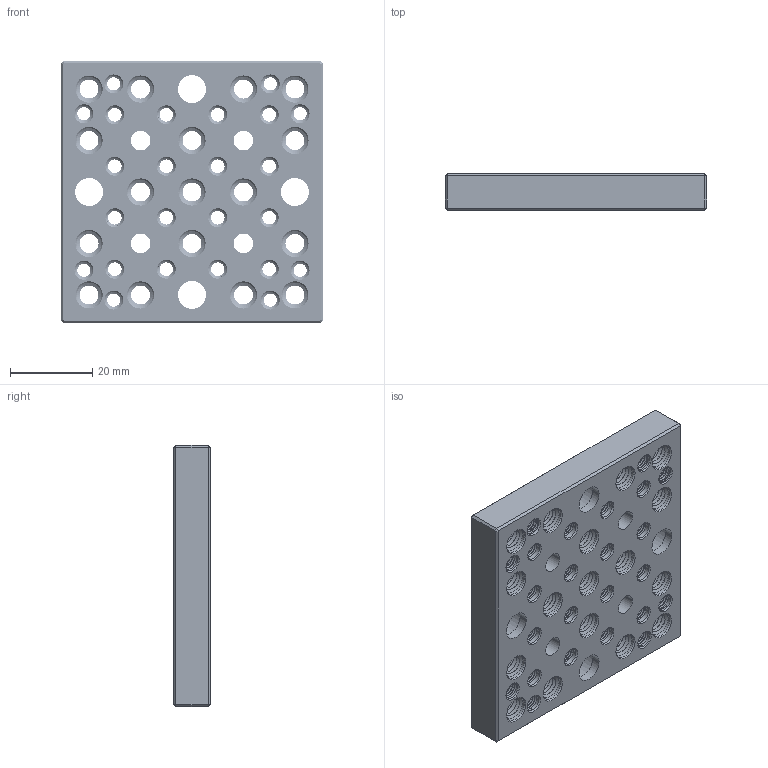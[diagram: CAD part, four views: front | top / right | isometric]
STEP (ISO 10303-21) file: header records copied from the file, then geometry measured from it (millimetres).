
FILE_DESCRIPTION((''),'2;1');
FILE_NAME('OPS-M406','2020-10-21T',('Administrator'),(''),'CREO PARAMETRIC BY PTC INC, 2017300','CREO PARAMETRIC BY PTC INC, 2017300','');
FILE_SCHEMA(('CONFIG_CONTROL_DESIGN'));
Products named in the file (1): OPS-M406
Bounding box: 63.5 x 9 x 63.5 mm (x, y, z)
Volume: 26169.7 mm3; surface area: 17702.7 mm2
Topology: 1 solids, 1 shells, 1369 faces, 3750 edges, 2391 vertices
Faces by surface type: cylinder 795, bspline 376, cone 164, plane 34
Entity records: 99807 total; most frequent: CARTESIAN_POINT 69827, ORIENTED_EDGE 7500, DIRECTION 4120, EDGE_CURVE 3750, VERTEX_POINT 2391, B_SPLINE_CURVE_WITH_KNOTS 2008, EDGE_LOOP 1475, AXIS2_PLACEMENT_3D 1385
